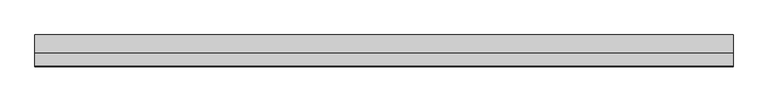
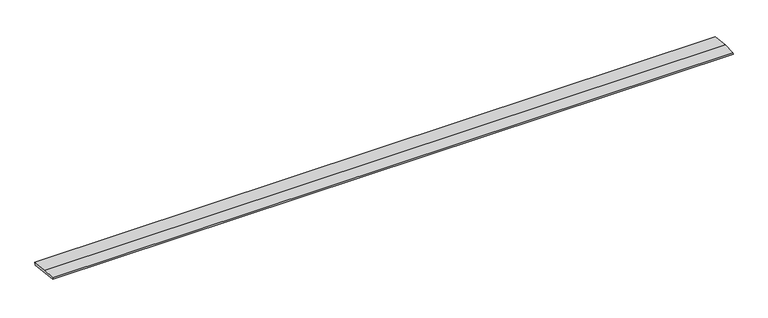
"""IFC4 building model written with IfcOpenShell, lengths in millimetres: beam geometry, weatherboad : weatherboad."""

from ifc_helpers import new_model, si_unit, frame, origin, place, context, project, spatial, polyline, outline, extrude, source, transform, mapped, element, save


def beam_9fa9cc63(model_context):
    return source(origin(), model_context, "Body", "SweptSolid", [
        extrude(outline(polyline([(0.0, -9.143159), (1.1226388, 0.0), (79.0749747, 0.0), (180.9387048, -12.5072934), (178.6231873, -31.3656703), (0.0, -9.143159)])), frame((-1989.0489816, 0.0, 0.0), z_axis=(1.0, 0.0, 0.0), x_axis=(0.0, 1.0, 0.0)), (0.0, 0.0, 1.0), 3978.0979632),
    ])


if __name__ == "__main__":
    model = new_model("IFC4")
    model_context = context("Model", 3, world=origin())
    ifc_project = project(units=[si_unit("LENGTHUNIT", "METRE", prefix="MILLI")], contexts=[model_context])
    site = spatial("IfcSite", under=ifc_project)
    building = spatial("IfcBuilding", under=site)
    placement = place(None, origin())
    beam_shape = beam_9fa9cc63(model_context)
    element("IfcBeam", 1, ObjectType="weatherboad : weatherboad", at=placement, inside=building, context=model_context, shape_type="MappedRepresentation", body=[
        mapped(beam_shape, transform((0.0, 0.0, 0.0), x_axis=(1.0, 0.0, 0.0), y_axis=(0.0, 1.0, 0.0), z_axis=(0.0, 0.0, 1.0))),
    ])
    save(model, "model.ifc")
